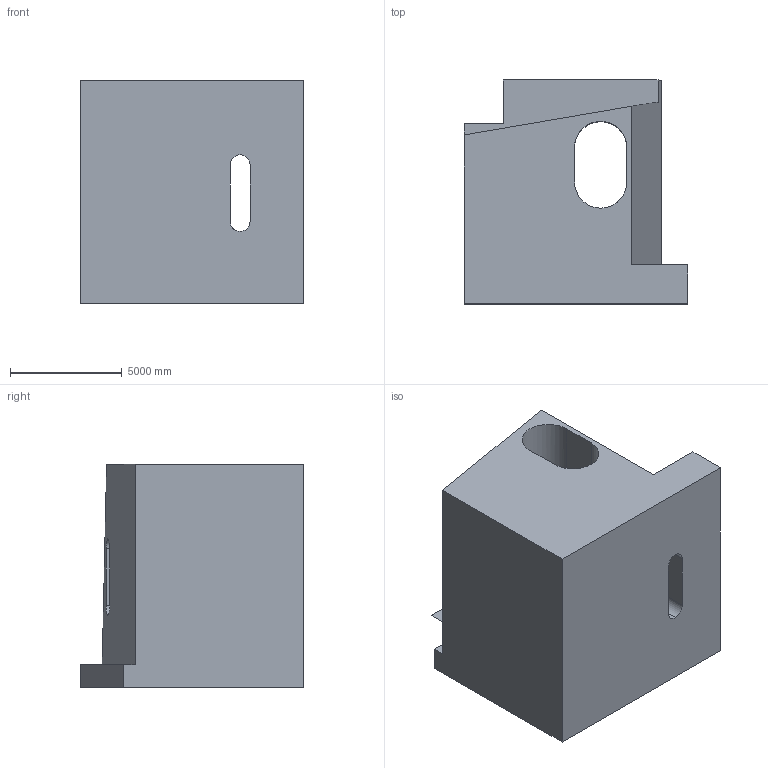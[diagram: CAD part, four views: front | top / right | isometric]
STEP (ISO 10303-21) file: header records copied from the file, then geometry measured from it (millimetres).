
FILE_DESCRIPTION (( 'STEP AP203' ), '1' );
FILE_NAME ('148.STEP', '2022-09-06T15:13:28', ( 'user' ), ( '' ), 'SwSTEP 2.0', 'SolidWorks 2021', '' );
FILE_SCHEMA (( 'CONFIG_CONTROL_DESIGN' ));
Length unit declared in the file: centimetre
Products named in the file (1): 148
Bounding box: 10000 x 10000 x 10000 mm (x, y, z)
Volume: 615388799541.7 mm3; surface area: 656537371 mm2
Topology: 1 solids, 1 shells, 24 faces, 72 edges, 48 vertices
Faces by surface type: plane 18, cylinder 6
Entity records: 1217 total; most frequent: CARTESIAN_POINT 491, ORIENTED_EDGE 144, DIRECTION 120, EDGE_CURVE 72, VECTOR 56, LINE 56, VERTEX_POINT 48, AXIS2_PLACEMENT_3D 32
